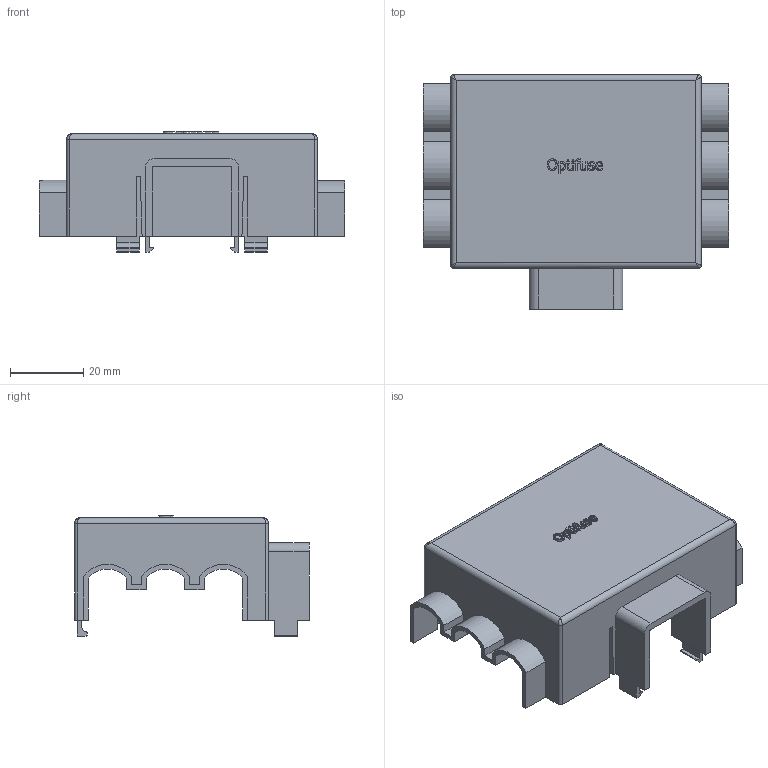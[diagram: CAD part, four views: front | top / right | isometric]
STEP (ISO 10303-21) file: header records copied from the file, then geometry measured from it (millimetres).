
FILE_DESCRIPTION(/* description */ (''),/* implementation_level */ '2;1');
FILE_NAME(/* name */ 'C:\Users\Hani\Desktop\work\BLC-106-G\BLC-106-C.stp',/* time_stamp */ '2021-07-07T09:21:57-07:00',/* author */ ('Hani'),/* organization */ (''),/* preprocessor_version */ 'ST-DEVELOPER v17',/* originating_system */ 'Autodesk Inventor 2019',/* authorisation */ '');
FILE_SCHEMA (('AUTOMOTIVE_DESIGN { 1 0 10303 214 3 1 1 }'));
Length unit declared in the file: inch
Products named in the file (1): BLC-106-C
Bounding box: 83.31 x 64.01 x 32.77 mm (x, y, z)
Volume: 19303.5 mm3; surface area: 21418.4 mm2
Topology: 1 solids, 1 shells, 260 faces, 730 edges, 480 vertices
Faces by surface type: plane 153, bspline 71, cylinder 36
Entity records: 8995 total; most frequent: CARTESIAN_POINT 2660, ORIENTED_EDGE 1452, DIRECTION 1044, EDGE_CURVE 726, LINE 520, VECTOR 520, VERTEX_POINT 480, EDGE_LOOP 272
